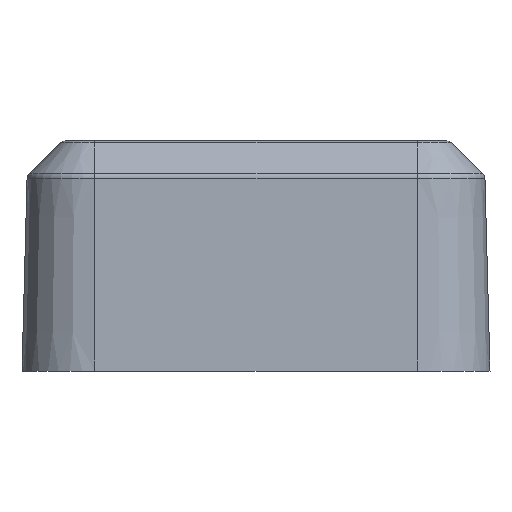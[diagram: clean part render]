
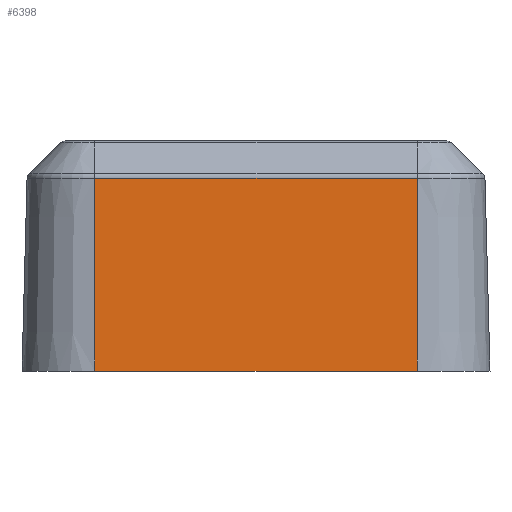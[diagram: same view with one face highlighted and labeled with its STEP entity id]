
A CAD part, left-side view. The second image highlights one B-rep face of the part: STEP entity #6398.
In plain terms, the highlighted planar face has unit normal (-1, 0, 0.026).
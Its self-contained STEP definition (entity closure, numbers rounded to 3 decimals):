
#483=DIRECTION('',(0.026,0.,1.));
#484=VECTOR('',#483,8.381);
#485=CARTESIAN_POINT('',(-24.17,-7.,-5.));
#486=LINE('',#485,#484);
#519=DIRECTION('',(0.,-1.,0.));
#520=VECTOR('',#519,14.);
#521=CARTESIAN_POINT('',(-24.17,7.,-5.));
#522=LINE('',#521,#520);
#2327=DIRECTION('',(-0.026,0.,-1.));
#2328=VECTOR('',#2327,8.381);
#2329=CARTESIAN_POINT('',(-23.951,7.,3.379));
#2330=LINE('',#2329,#2328);
#2367=DIRECTION('',(0.,1.,0.));
#2368=VECTOR('',#2367,14.);
#2369=CARTESIAN_POINT('',(-23.951,-7.,
3.379));
#2370=LINE('',#2369,#2368);
#2371=CARTESIAN_POINT('',(-24.17,-7.,-5.));
#2373=VERTEX_POINT('',#2371);
#2385=CARTESIAN_POINT('',(-24.17,7.,-5.));
#2386=VERTEX_POINT('',#2385);
#2396=CARTESIAN_POINT('',(-23.951,-7.,
3.379));
#2398=VERTEX_POINT('',#2396);
#2411=CARTESIAN_POINT('',(-23.951,7.,3.379));
#2412=VERTEX_POINT('',#2411);
#6387=CARTESIAN_POINT('',(-24.,11.686,1.5));
#6388=DIRECTION('',(-1.,0.,0.026));
#6389=DIRECTION('',(0.,-1.,0.));
#6390=AXIS2_PLACEMENT_3D('',#6387,#6388,#6389);
#6391=PLANE('',#6390);
#6392=ORIENTED_EDGE('',*,*,#6381,.F.);
#6393=ORIENTED_EDGE('',*,*,#3670,.F.);
#6394=ORIENTED_EDGE('',*,*,#3691,.F.);
#6395=ORIENTED_EDGE('',*,*,#6327,.F.);
#6396=EDGE_LOOP('',(#6392,#6393,#6394,#6395));
#6397=FACE_OUTER_BOUND('',#6396,.F.);
#3670=EDGE_CURVE('',#2373,#2398,#486,.T.);
#3691=EDGE_CURVE('',#2386,#2373,#522,.T.);
#6327=EDGE_CURVE('',#2412,#2386,#2330,.T.);
#6381=EDGE_CURVE('',#2398,#2412,#2370,.T.);
#6398=ADVANCED_FACE('',(#6397),#6391,.T.);
